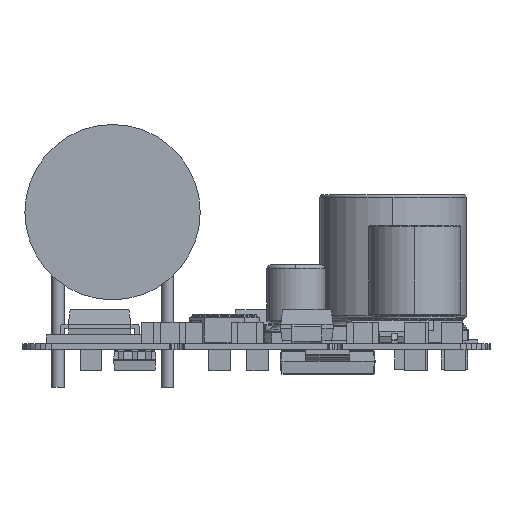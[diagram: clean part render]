
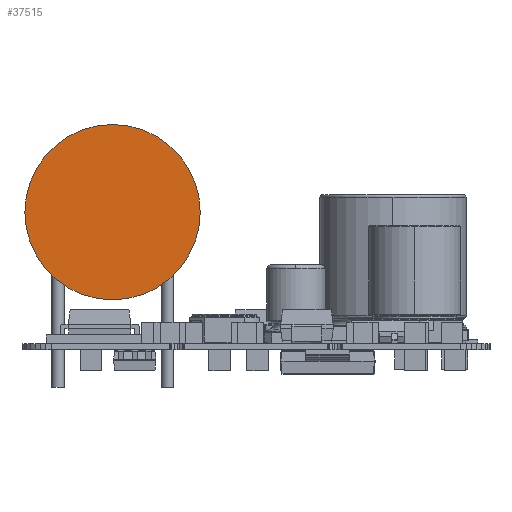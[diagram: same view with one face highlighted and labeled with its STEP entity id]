
A CAD part, front view. The second image highlights one B-rep face of the part: STEP entity #37515.
In plain terms, the highlighted planar face has unit normal (0, -1, 0) as drawn and (0, 0, -1) by its records, which use the part's own axes.
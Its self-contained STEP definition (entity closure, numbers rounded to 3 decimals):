
#37425 = EDGE_CURVE('',#37426,#37426,#37428,.T.);
#37426 = VERTEX_POINT('',#37427);
#37427 = CARTESIAN_POINT('',(6.,0.,0.));
#37428 = SURFACE_CURVE('',#37429,(#37434,#37445),.PCURVE_S1.);
#37429 = CIRCLE('',#37430,6.);
#37430 = AXIS2_PLACEMENT_3D('',#37431,#37432,#37433);
#37431 = CARTESIAN_POINT('',(0.,0.,0.));
#37432 = DIRECTION('',(0.,0.,1.));
#37433 = DIRECTION('',(1.,0.,0.));
#37434 = PCURVE('',#37435,#37440);
#37435 = CYLINDRICAL_SURFACE('',#37436,6.);
#37436 = AXIS2_PLACEMENT_3D('',#37437,#37438,#37439);
#37437 = CARTESIAN_POINT('',(0.,0.,0.));
#37438 = DIRECTION('',(0.,0.,-1.));
#37439 = DIRECTION('',(1.,0.,0.));
#37440 = DEFINITIONAL_REPRESENTATION('',(#37441),#37444);
#37441 = B_SPLINE_CURVE_WITH_KNOTS('',1,(#37442,#37443),.UNSPECIFIED.,
  .F.,.F.,(2,2),(0.,6.283),.PIECEWISE_BEZIER_KNOTS.);
#37442 = CARTESIAN_POINT('',(6.283,0.));
#37443 = CARTESIAN_POINT('',(0.,0.));
#37444 = ( GEOMETRIC_REPRESENTATION_CONTEXT(2) 
PARAMETRIC_REPRESENTATION_CONTEXT() REPRESENTATION_CONTEXT('2D SPACE',''
  ) );
#37445 = PCURVE('',#37446,#37451);
#37446 = PLANE('',#37447);
#37447 = AXIS2_PLACEMENT_3D('',#37448,#37449,#37450);
#37448 = CARTESIAN_POINT('',(6.,0.,0.));
#37449 = DIRECTION('',(0.,0.,-1.));
#37450 = DIRECTION('',(-1.,0.,0.));
#37451 = DEFINITIONAL_REPRESENTATION('',(#37452),#37460);
#37452 = ( BOUNDED_CURVE() B_SPLINE_CURVE(2,(#37453,#37454,#37455,#37456
    ,#37457,#37458,#37459),.UNSPECIFIED.,.F.,.F.) 
B_SPLINE_CURVE_WITH_KNOTS((1,2,2,2,2,1),(-2.094,0.,
    2.094,4.189,6.283,8.378),
.UNSPECIFIED.) CURVE() GEOMETRIC_REPRESENTATION_ITEM() 
RATIONAL_B_SPLINE_CURVE((1.,0.5,1.,0.5,1.,0.5,1.)) REPRESENTATION_ITEM(
  '') );
#37453 = CARTESIAN_POINT('',(0.,0.));
#37454 = CARTESIAN_POINT('',(0.,10.392));
#37455 = CARTESIAN_POINT('',(9.,5.196));
#37456 = CARTESIAN_POINT('',(18.,0.));
#37457 = CARTESIAN_POINT('',(9.,-5.196));
#37458 = CARTESIAN_POINT('',(0.,-10.392));
#37459 = CARTESIAN_POINT('',(0.,0.));
#37460 = ( GEOMETRIC_REPRESENTATION_CONTEXT(2) 
PARAMETRIC_REPRESENTATION_CONTEXT() REPRESENTATION_CONTEXT('2D SPACE',''
  ) );
#37515 = ADVANCED_FACE('',(#37516),#37446,.T.);
#37516 = FACE_BOUND('',#37517,.F.);
#37517 = EDGE_LOOP('',(#37518));
#37518 = ORIENTED_EDGE('',*,*,#37425,.T.);
